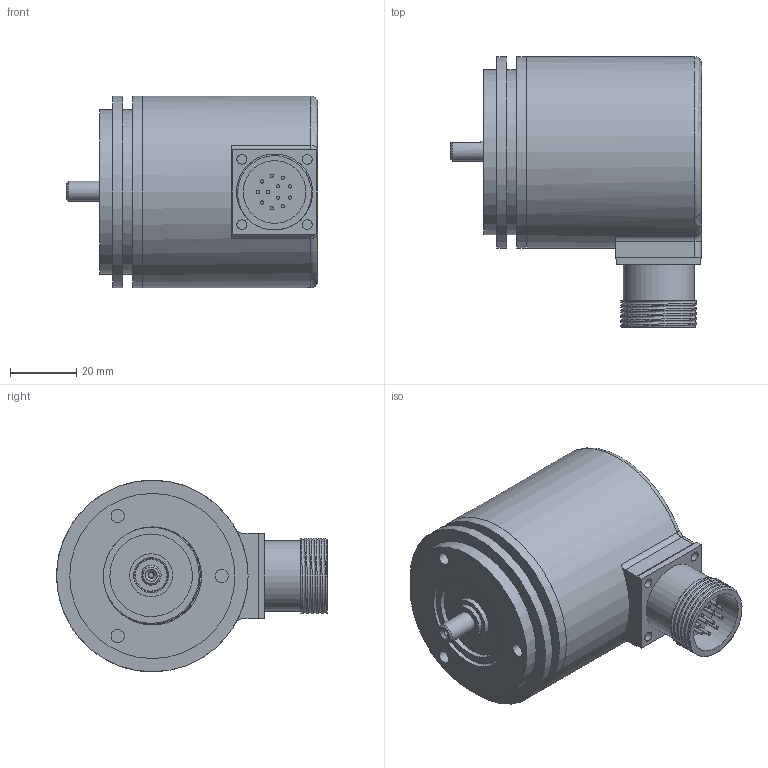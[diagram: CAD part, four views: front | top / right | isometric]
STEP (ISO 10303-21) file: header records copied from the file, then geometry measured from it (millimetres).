
FILE_DESCRIPTION(/* description */ (''),/* implementation_level */ '2;1');
FILE_NAME(/* name */ '3DCAD_EI 1058_S06x10y_M23R.stp',/* time_stamp */ '2020-07-16T10:50:08+02:00',/* author */ ('CC2'),/* organization */ ('Leuze electronic'),/* preprocessor_version */ 'ST-DEVELOPER v16',/* originating_system */ 'SIEMENS PLM Software NX 11.0',/* authorisation */ '');
FILE_SCHEMA (('AUTOMOTIVE_DESIGN { 1 0 10303 214 3 1 1 1 }'));
Length unit declared in the file: millimetre
Products named in the file (1): 19-103173_00_1-3DCAD_EI 1058_S06x10y_M23R
Bounding box: 76 x 82 x 58 mm (x, y, z)
Volume: 176945.6 mm3; surface area: 23451.9 mm2
Topology: 1 solids, 1 shells, 105 faces, 216 edges, 147 vertices
Faces by surface type: plane 52, cylinder 42, torus 7, cone 3, bspline 1
Full cylindrical faces by diameter (mm): 1 x12, 1.6 x1, 1.8 x1, 3 x4, 4 x3, 6 x1, 9.6 x1, 10.03 x1, 13 x1, 19 x1, 21.5 x1, 25 x1, 29.73 x1, 50 x2, 54 x1, 58 x3
Entity records: 4232 total; most frequent: CARTESIAN_POINT 1542, DIRECTION 447, ORIENTED_EDGE 338, AXIS2_PLACEMENT_3D 205, EDGE_LOOP 177, EDGE_CURVE 169, VERTEX_POINT 140, FACE_BOUND 128
